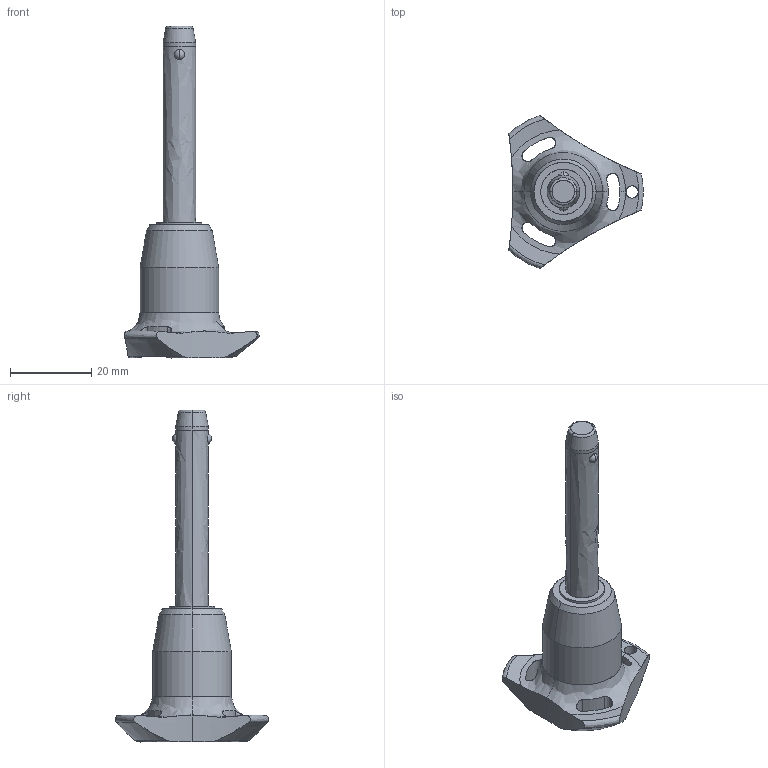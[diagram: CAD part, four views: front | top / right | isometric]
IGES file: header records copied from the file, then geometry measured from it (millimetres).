
Start section: SolidWorks IGES file using analytic representation for surfaces
Global section: file name: C:\Users\ianosborn\Desktop\QR1736_v2\QR1736_v2_20251115_IGES\QR1736.M08-040-T.igs; native system: SolidWorks 2019; preprocessor: SolidWorks 2019; author: IanOsborn; date: 251113.115509; units: millimetre
Bounding box: 33 x 37.51 x 81.5 mm (x, y, z)
Surface area: 5060.1 mm2 (no closed solid volume)
Topology: 0 solids, 0 shells, 68 faces, 1346 edges, 1342 vertices
Faces by surface type: revolution 52, bspline 16
